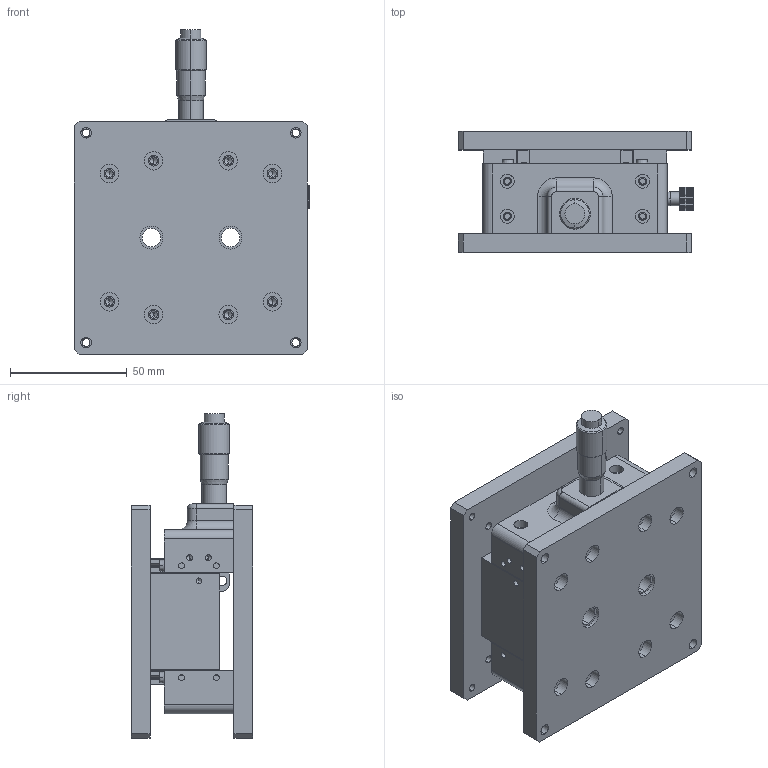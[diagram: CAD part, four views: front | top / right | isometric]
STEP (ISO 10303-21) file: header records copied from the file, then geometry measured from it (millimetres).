
FILE_DESCRIPTION (( 'STEP AP203' ), '1' );
FILE_NAME ('JCHZ-100.STEP', '2019-02-08T04:59:07', ( 'Windows 餌辨濠' ), ( '' ), 'SwSTEP 2.0', 'SolidWorks 2018', '' );
FILE_SCHEMA (( 'CONFIG_CONTROL_DESIGN' ));
Length unit declared in the file: millimetre
Products named in the file (11): FB--JCHZ100-BD-01; FB--JCHZ100-BD-05; FB--JCHZ100-BD-04; FB--JCHZ100-BD-02; JV2-30-5; FC-PL-26X18; JCHZ-100; FC-NB-10; FB--JCHZ100-BD-03; JALB-72-R; FC-SJ-3
Assembly tree (17 placements, depth 2):
  JCHZ-100
    FB--JCHZ100-BD-02
    JV2-30-5  x8
    FB--JCHZ100-BD-01
    FB--JCHZ100-BD-03
    FB--JCHZ100-BD-04
    FB--JCHZ100-BD-05
    JALB-72-R
    FC-PL-26X18
    FC-SJ-3
    FC-NB-10
Bounding box: 100.9 x 52 x 139.2 mm (x, y, z)
Volume: 304648.8 mm3; surface area: 101910.2 mm2
Topology: 17 solids, 17 shells, 1516 faces, 3874 edges, 2438 vertices
Faces by surface type: plane 719, cylinder 689, cone 100, torus 4, sphere 4
Entity records: 25171 total; most frequent: DIRECTION 4474, CARTESIAN_POINT 4072, ORIENTED_EDGE 3872, EDGE_CURVE 1936, AXIS2_PLACEMENT_3D 1748, VERTEX_POINT 1262, EDGE_LOOP 990, VECTOR 978
